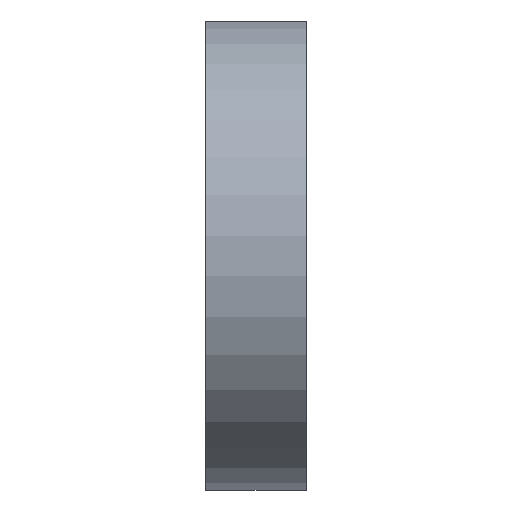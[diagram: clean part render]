
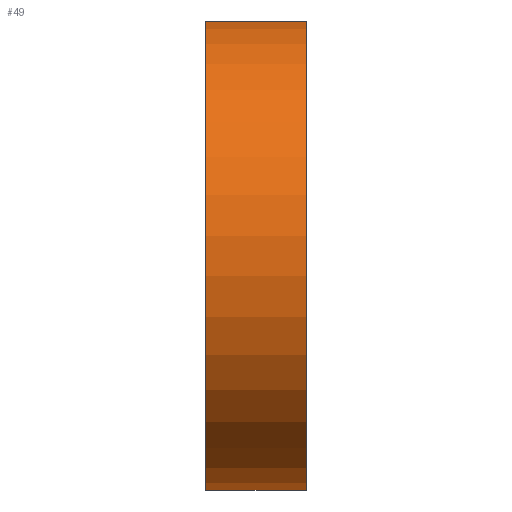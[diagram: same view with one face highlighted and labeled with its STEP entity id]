
A CAD part, left-side view. The second image highlights one B-rep face of the part: STEP entity #49.
In plain terms, the highlighted cylindrical face has radius 3.5 mm (diameter 7 mm), a partial arc.
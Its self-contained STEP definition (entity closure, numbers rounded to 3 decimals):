
#49=ADVANCED_FACE('',(#69),#60,.T.);
#60=CYLINDRICAL_SURFACE('',#260,3.5);
#69=FACE_OUTER_BOUND('',#79,.T.);
#79=EDGE_LOOP('',(#138,#139,#140,#141));
#97=LINE('',#375,#111);
#98=LINE('',#381,#112);
#111=VECTOR('',#304,1.);
#112=VECTOR('',#311,1.);
#138=ORIENTED_EDGE('',*,*,#212,.F.);
#139=ORIENTED_EDGE('',*,*,#214,.T.);
#140=ORIENTED_EDGE('',*,*,#215,.F.);
#141=ORIENTED_EDGE('',*,*,#216,.F.);
#188=VERTEX_POINT('',#374);
#189=VERTEX_POINT('',#376);
#190=VERTEX_POINT('',#380);
#191=VERTEX_POINT('',#382);
#212=EDGE_CURVE('',#188,#189,#97,.T.);
#214=EDGE_CURVE('',#188,#190,#236,.T.);
#215=EDGE_CURVE('',#191,#190,#98,.T.);
#216=EDGE_CURVE('',#189,#191,#237,.T.);
#236=CIRCLE('',#258,3.5);
#237=CIRCLE('',#259,3.5);
#258=AXIS2_PLACEMENT_3D('',#379,#309,#310);
#259=AXIS2_PLACEMENT_3D('',#383,#312,#313);
#260=AXIS2_PLACEMENT_3D('',#384,#314,#315);
#304=DIRECTION('',(0.,1.,0.));
#309=DIRECTION('',(0.,1.,0.));
#310=DIRECTION('',(0.568,0.,-0.823));
#311=DIRECTION('',(0.,-1.,0.));
#312=DIRECTION('',(0.,1.,0.));
#313=DIRECTION('',(0.568,0.,-0.823));
#314=DIRECTION('',(0.,1.,0.));
#315=DIRECTION('',(0.,0.,1.));
#374=CARTESIAN_POINT('',(-23.312,0.,-2.881));
#375=CARTESIAN_POINT('',(-23.312,0.,-2.881));
#376=CARTESIAN_POINT('',(-23.312,1.5,-2.881));
#379=CARTESIAN_POINT('',(-25.3,0.,0.));
#380=CARTESIAN_POINT('',(-23.312,0.,2.881));
#381=CARTESIAN_POINT('',(-23.312,0.,2.881));
#382=CARTESIAN_POINT('',(-23.312,1.5,2.881));
#383=CARTESIAN_POINT('',(-25.3,1.5,0.));
#384=CARTESIAN_POINT('',(-25.3,0.,0.));
